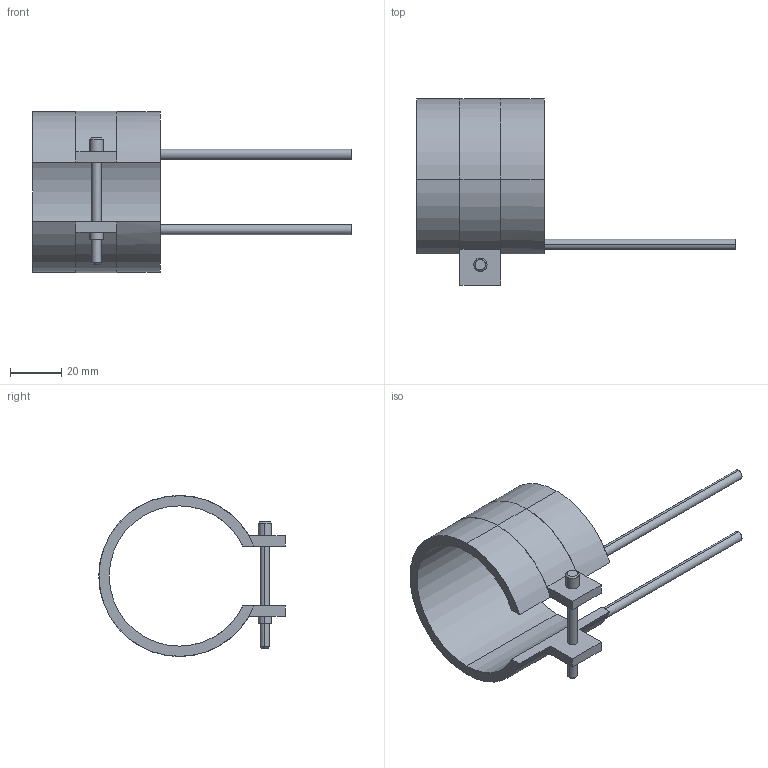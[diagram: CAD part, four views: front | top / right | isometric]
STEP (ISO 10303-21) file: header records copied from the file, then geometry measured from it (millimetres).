
FILE_DESCRIPTION(('CATIA V5 STEP Exchange'),'2;1');
FILE_NAME('C:\Users\Utente\Desktop\IO LAVORO\3D X SITO CF\X SITO\PLASTICA\RF2\14055050.stp','2021-04-01T09:33:36+00:00',('none'),('none'),'CATIA Version 5 Release 20 GA (IN-10)','CATIA V5 STEP AP203','none');
FILE_SCHEMA(('CONFIG_CONTROL_DESIGN'));
Length unit declared in the file: millimetre
Products named in the file (1): 14055050
Bounding box: 125 x 73.1 x 63.2 mm (x, y, z)
Volume: 36598.5 mm3; surface area: 21299.7 mm2
Topology: 1 solids, 1 shells, 45 faces, 116 edges, 76 vertices
Faces by surface type: cylinder 24, plane 17, cone 4
Entity records: 1400 total; most frequent: CARTESIAN_POINT 274, ORIENTED_EDGE 232, DIRECTION 196, EDGE_CURVE 116, AXIS2_PLACEMENT_3D 104, VERTEX_POINT 76, CIRCLE 62, VECTOR 52
